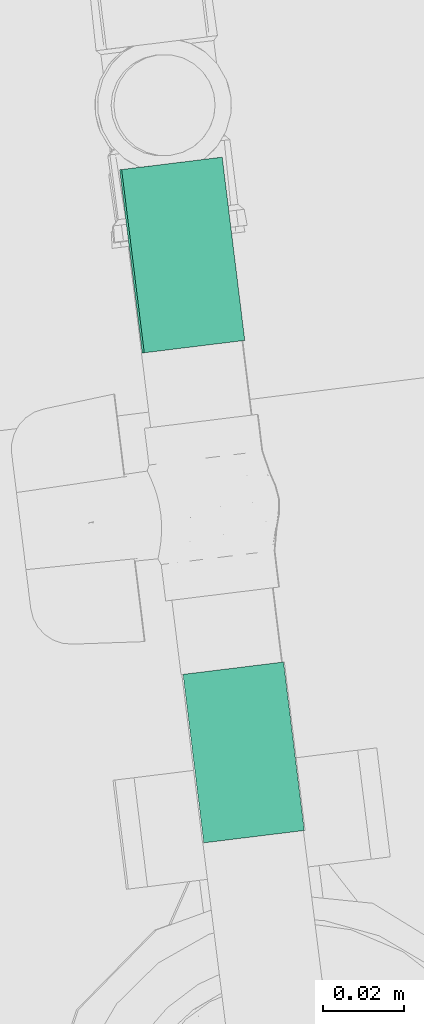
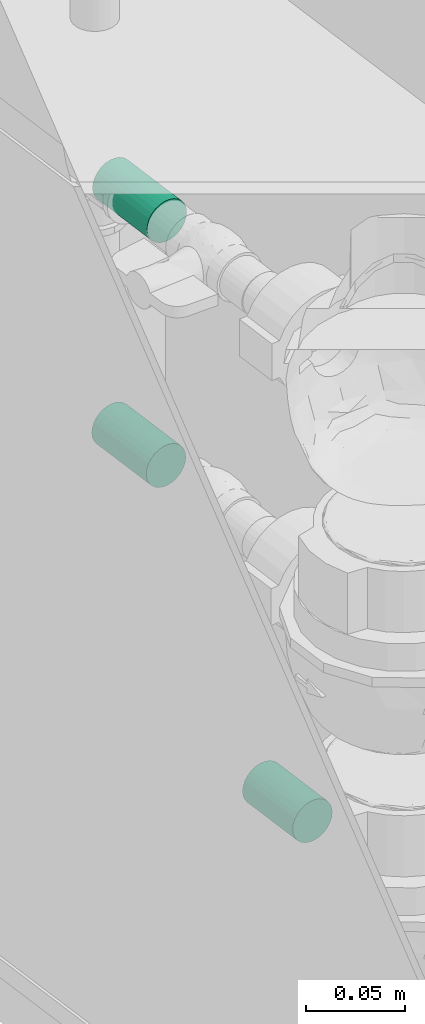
# One storey, part 82 of 97: 3 flow segments.
"""IFC2X3 building model written with IfcOpenShell, lengths in centimetres."""

from ifc_helpers import new_model, entity, si_unit, converted_unit, derived_unit, direction, frame, origin, origin_2d_with_axis, place, context, subcontext, project, spatial, circle, extrude, type_object, element, save


model = new_model("IFC2X3")

# Units and contexts
model_context = context("Model", 3, precision=0.001, world=origin(), true_north=direction((6.12303176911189e-17, 1.0)))
body_context = subcontext(model_context, "Body", "Model", "MODEL_VIEW")
ifc_project = project(units=[si_unit("LENGTHUNIT", "METRE", prefix="CENTI"), si_unit("AREAUNIT", "SQUARE_METRE"), si_unit("VOLUMEUNIT", "CUBIC_METRE"), converted_unit("PLANEANGLEUNIT", "DEGREE", entity("IfcRatioMeasure", 0.0174532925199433), si_unit("PLANEANGLEUNIT", "RADIAN"), dimensions=[0, 0, 0, 0, 0, 0, 0]), si_unit("MASSUNIT", "GRAM", prefix="KILO"), derived_unit("MASSDENSITYUNIT", [(si_unit("MASSUNIT", "GRAM", prefix="KILO"), 1), (si_unit("LENGTHUNIT", "METRE"), -3)]), derived_unit("MOMENTOFINERTIAUNIT", [(si_unit("LENGTHUNIT", "METRE"), 4)]), si_unit("TIMEUNIT", "SECOND"), si_unit("FREQUENCYUNIT", "HERTZ"), si_unit("THERMODYNAMICTEMPERATUREUNIT", "DEGREE_CELSIUS"), derived_unit("THERMALTRANSMITTANCEUNIT", [(si_unit("MASSUNIT", "GRAM", prefix="KILO"), 1), (si_unit("THERMODYNAMICTEMPERATUREUNIT", "KELVIN"), -1), (si_unit("TIMEUNIT", "SECOND"), -3)]), derived_unit("VOLUMETRICFLOWRATEUNIT", [(si_unit("LENGTHUNIT", "METRE"), 3), (si_unit("TIMEUNIT", "SECOND"), -1)]), si_unit("ELECTRICCURRENTUNIT", "AMPERE"), si_unit("ELECTRICVOLTAGEUNIT", "VOLT"), si_unit("POWERUNIT", "WATT"), si_unit("FORCEUNIT", "NEWTON", prefix="KILO"), si_unit("ILLUMINANCEUNIT", "LUX"), si_unit("LUMINOUSFLUXUNIT", "LUMEN"), si_unit("LUMINOUSINTENSITYUNIT", "CANDELA"), derived_unit("USERDEFINED", [(si_unit("MASSUNIT", "GRAM", prefix="KILO"), -1), (si_unit("LENGTHUNIT", "METRE"), -2), (si_unit("TIMEUNIT", "SECOND"), 3), (si_unit("LUMINOUSFLUXUNIT", "LUMEN"), 1)]), derived_unit("LINEARVELOCITYUNIT", [(si_unit("LENGTHUNIT", "METRE"), 1), (si_unit("TIMEUNIT", "SECOND"), -1)]), si_unit("PRESSUREUNIT", "PASCAL"), derived_unit("USERDEFINED", [(si_unit("LENGTHUNIT", "METRE"), -2), (si_unit("MASSUNIT", "GRAM", prefix="KILO"), 1), (si_unit("TIMEUNIT", "SECOND"), -2)]), derived_unit("LINEARFORCEUNIT", [(si_unit("MASSUNIT", "GRAM", prefix="KILO"), 1), (si_unit("LENGTHUNIT", "METRE"), 1), (si_unit("TIMEUNIT", "SECOND"), -2), (si_unit("LENGTHUNIT", "METRE"), -1)]), derived_unit("PLANARFORCEUNIT", [(si_unit("MASSUNIT", "GRAM", prefix="KILO"), 1), (si_unit("LENGTHUNIT", "METRE"), 1), (si_unit("TIMEUNIT", "SECOND"), -2), (si_unit("LENGTHUNIT", "METRE"), -2)])], contexts=[model_context])

# Site, building, storey
site_placement = place(None, origin())
site = spatial("IfcSite", under=ifc_project, at=site_placement, Name="Default", CompositionType="ELEMENT")
building_placement = place(site_placement, origin())
building = spatial("IfcBuilding", under=site, at=building_placement, Name="HIDROSSANITÁRIO", CompositionType="ELEMENT")
storey_placement = place(building_placement, frame((0.0, 0.0, -260.0)))
storey = spatial("IfcBuildingStorey", under=building, at=storey_placement, Name="TÉRREO-HID", CompositionType="ELEMENT", Elevation=-260.0)

# Flow segments
pipe_segment_type = type_object("IfcPipeSegmentType", Name="Tipos de tubos:Tubo Marrom - Água Fria - Soldável", PredefinedType="NOTDEFINED")
flow_segment_1_placement = place(storey_placement, origin())
element("IfcFlowSegment", 1, at=flow_segment_1_placement, inside=storey, type_object=pipe_segment_type, Name="Tipos de tubos:Tubo Marrom - Água Fria - Soldável", ObjectType="Tipos de tubos:Tubo Marrom - Água Fria - Soldável", context=body_context, shape_type="SweptSolid", body=[
    extrude(circle(Radius=1.25, at=origin_2d_with_axis()), frame((-2441.36384020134, 3250.3889769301, 46.0346769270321), z_axis=(-0.122329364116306, 0.992489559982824, 0.0), x_axis=(0.992489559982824, 0.122329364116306, 0.0)), (0.0, 0.0, 1.0), 4.55716053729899),
])
flow_segment_2_placement = place(storey_placement, origin())
element("IfcFlowSegment", 2, at=flow_segment_2_placement, inside=storey, type_object=pipe_segment_type, Name="Tipos de tubos:Tubo Marrom - Água Fria - Soldável", ObjectType="Tipos de tubos:Tubo Marrom - Água Fria - Soldável", context=body_context, shape_type="SweptSolid", body=[
    extrude(circle(Radius=1.25, at=origin_2d_with_axis()), frame((-2441.96998131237, 3254.90612734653, 31.0346769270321), z_axis=(0.122329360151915, -0.992489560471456, 0.0), x_axis=(0.992489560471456, 0.122329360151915, 0.0)), (0.0, 0.0, 1.0), 4.55726264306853),
])
flow_segment_3_placement = place(storey_placement, origin())
element("IfcFlowSegment", 3, at=flow_segment_3_placement, inside=storey, type_object=pipe_segment_type, Name="Tipos de tubos:Tubo Marrom - Água Fria - Soldável", ObjectType="Tipos de tubos:Tubo Marrom - Água Fria - Soldável", context=body_context, shape_type="SweptSolid", body=[
    extrude(circle(Radius=1.25, at=origin_2d_with_axis()), frame((-2439.89490886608, 3238.29454935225, 16.0346769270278), z_axis=(-0.122152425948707, 0.992511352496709, 0.0), x_axis=(-0.992511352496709, -0.122152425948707, 0.0)), (0.0, 0.0, 1.0), 4.18929019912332),
])

save(model, "model.ifc")
